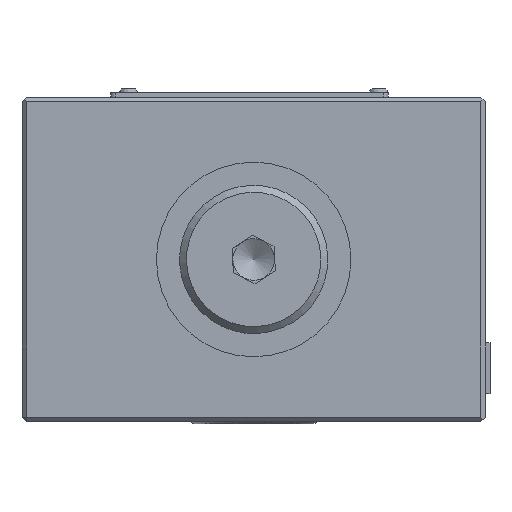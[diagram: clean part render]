
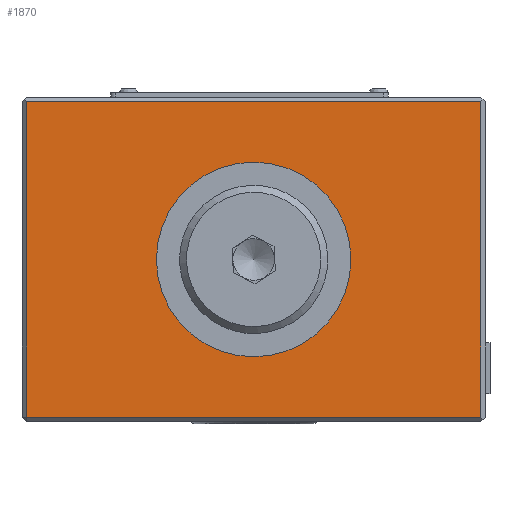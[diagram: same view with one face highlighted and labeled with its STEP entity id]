
A CAD part, front view. The second image highlights one B-rep face of the part: STEP entity #1870.
In plain terms, the highlighted planar face has unit normal (0, -1, 0).
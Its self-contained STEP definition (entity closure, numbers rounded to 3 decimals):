
#814=PLANE('',#10451);
#1161=FACE_BOUND('',#3185,.T.);
#1162=FACE_BOUND('',#3186,.T.);
#1870=ADVANCED_FACE('',(#1161,#1162),#814,.T.);
#3185=EDGE_LOOP('',(#6538,#6539,#6540,#6541));
#3186=EDGE_LOOP('',(#6542));
#3828=CIRCLE('',#10450,21.);
#4311=LINE('',#21196,#4731);
#4312=LINE('',#21199,#4732);
#4313=LINE('',#21201,#4733);
#4314=LINE('',#21203,#4734);
#4731=VECTOR('',#12578,1.);
#4732=VECTOR('',#12579,1.);
#4733=VECTOR('',#12580,1.);
#4734=VECTOR('',#12581,1.);
#6538=ORIENTED_EDGE('',*,*,#9015,.T.);
#6539=ORIENTED_EDGE('',*,*,#9016,.T.);
#6540=ORIENTED_EDGE('',*,*,#9017,.T.);
#6541=ORIENTED_EDGE('',*,*,#9018,.T.);
#6542=ORIENTED_EDGE('',*,*,#9019,.T.);
#7864=VERTEX_POINT('',#21197);
#7865=VERTEX_POINT('',#21198);
#7866=VERTEX_POINT('',#21200);
#7867=VERTEX_POINT('',#21202);
#7868=VERTEX_POINT('',#21205);
#9015=EDGE_CURVE('',#7864,#7865,#4311,.T.);
#9016=EDGE_CURVE('',#7865,#7866,#4312,.T.);
#9017=EDGE_CURVE('',#7866,#7867,#4313,.T.);
#9018=EDGE_CURVE('',#7867,#7864,#4314,.T.);
#9019=EDGE_CURVE('',#7868,#7868,#3828,.T.);
#10450=AXIS2_PLACEMENT_3D('',#21204,#12582,#12583);
#10451=AXIS2_PLACEMENT_3D('',#21206,#12584,#12585);
#12578=DIRECTION('',(-1.,0.,0.));
#12579=DIRECTION('',(0.,0.,-1.));
#12580=DIRECTION('',(1.,0.,0.));
#12581=DIRECTION('',(0.,0.,1.));
#12582=DIRECTION('',(0.,1.,0.));
#12583=DIRECTION('',(0.,0.,1.));
#12584=DIRECTION('',(0.,-1.,0.));
#12585=DIRECTION('',(0.,0.,1.));
#21196=CARTESIAN_POINT('',(57.801,-126.127,34.));
#21197=CARTESIAN_POINT('',(56.801,-126.127,34.));
#21198=CARTESIAN_POINT('',(-41.199,-126.127,34.));
#21199=CARTESIAN_POINT('',(-41.199,-126.127,35.));
#21200=CARTESIAN_POINT('',(-41.199,-126.127,-34.));
#21201=CARTESIAN_POINT('',(56.801,-126.127,-34.));
#21202=CARTESIAN_POINT('',(56.801,-126.127,-34.));
#21203=CARTESIAN_POINT('',(56.801,-126.127,35.));
#21204=CARTESIAN_POINT('',(7.801,-126.127,0.));
#21205=CARTESIAN_POINT('',(7.801,-126.127,21.));
#21206=CARTESIAN_POINT('',(57.801,-126.127,35.));
